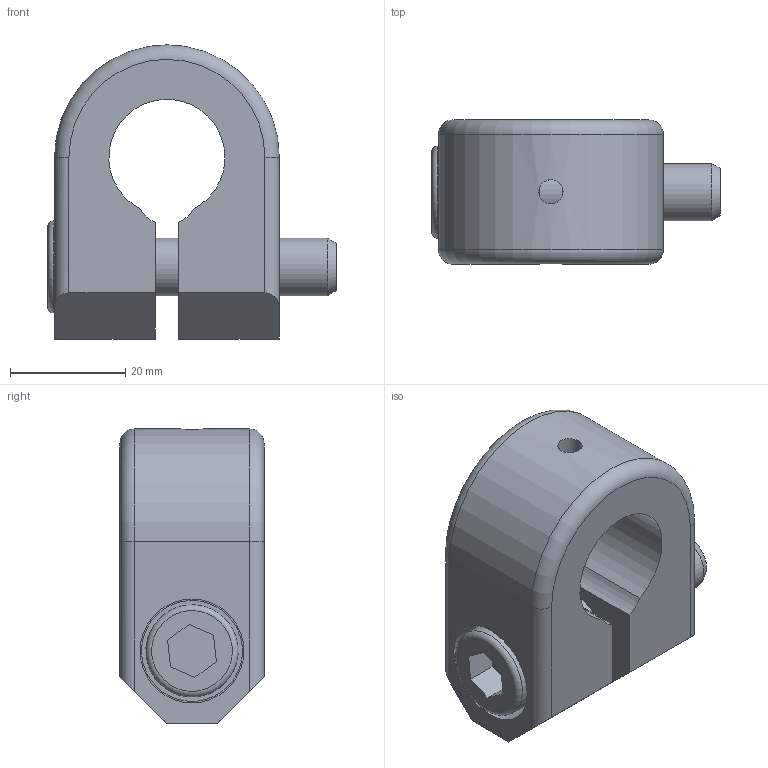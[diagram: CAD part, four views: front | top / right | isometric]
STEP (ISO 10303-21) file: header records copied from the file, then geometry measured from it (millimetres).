
FILE_DESCRIPTION(('STEP AP214'),'1');
FILE_NAME('CA.HAR.20.stp','2018-10-31T08:22:23',(' '),(' '),'Spatial InterOp 3D',' ',' ');
FILE_SCHEMA(('AUTOMOTIVE_DESIGN { 1 0 10303 214 1 1 1 1 }'));
Length unit declared in the file: millimetre
Products named in the file (4): CA.HAR.20; V.TCE10x40; R.10.SCH; HAR.20
Assembly tree (3 placements, depth 2):
  CA.HAR.20
    V.TCE10x40
    R.10.SCH
    HAR.20
Bounding box: 50 x 25 x 51 mm (x, y, z)
Volume: 32322.6 mm3; surface area: 12348.4 mm2
Topology: 3 solids, 3 shells, 48 faces, 107 edges, 69 vertices
Faces by surface type: plane 26, cylinder 16, torus 4, cone 2
Full cylindrical faces by diameter (mm): 4.2 x1, 10 x1, 10.5 x2, 11 x1, 16 x1, 17.5 x1, 18 x1
Entity records: 1861 total; most frequent: CARTESIAN_POINT 324, DIRECTION 234, ORIENTED_EDGE 190, EDGE_CURVE 95, AXIS2_PLACEMENT_3D 89, EDGE_LOOP 72, VERTEX_POINT 69, FACE_OUTER_BOUND 58
